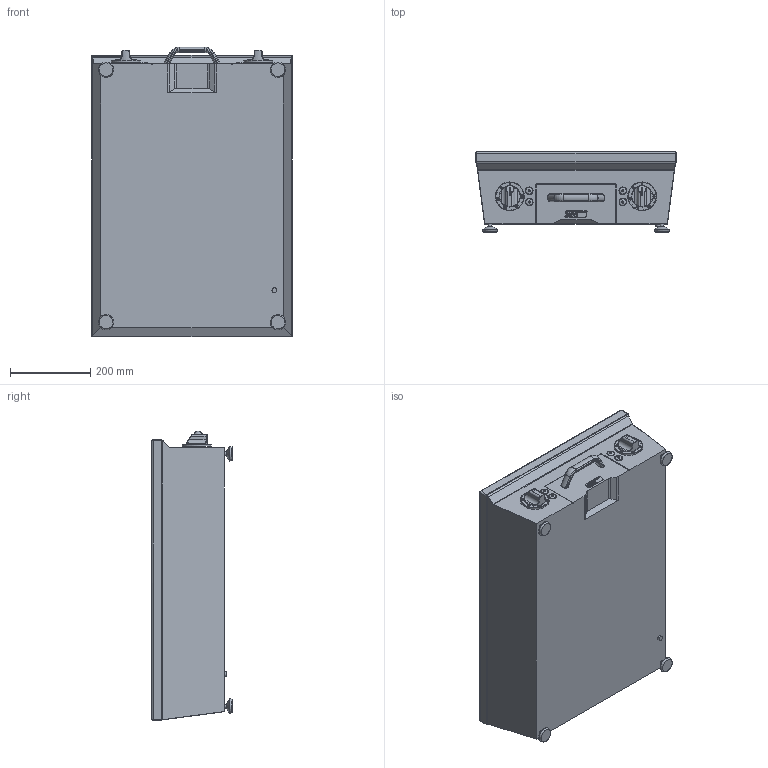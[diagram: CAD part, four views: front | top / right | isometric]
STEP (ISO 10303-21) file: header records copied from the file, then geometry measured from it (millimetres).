
FILE_DESCRIPTION (( 'STEP AP214' ), '1' );
FILE_NAME ('MS-G-50-RE.STEP', '2026-04-01T07:52:27', ( '' ), ( '' ), 'SwSTEP 2.0', 'SolidWorks 2023', '' );
FILE_SCHEMA (( 'AUTOMOTIVE_DESIGN' ));
Length unit declared in the file: millimetre
Products named in the file (1): MS-G-50-RE
Bounding box: 500 x 200 x 720.48 mm (x, y, z)
Volume: 46462361.5 mm3; surface area: 1295069.7 mm2
Topology: 9 solids, 12 shells, 1042 faces, 2634 edges, 1713 vertices
Faces by surface type: plane 536, bspline 290, cylinder 170, torus 30, cone 16
Full cylindrical faces by diameter (mm): 7.09 x4, 9.09 x4, 12 x1, 13 x2, 15 x2, 17 x4, 19 x4, 44.5 x2, 60 x2, 69.8 x2, 70 x2, 72 x2
Entity records: 35522 total; most frequent: CARTESIAN_POINT 13015, ORIENTED_EDGE 5108, DIRECTION 3654, EDGE_CURVE 2554, VERTEX_POINT 1684, LINE 1512, VECTOR 1512, EDGE_LOOP 1192
